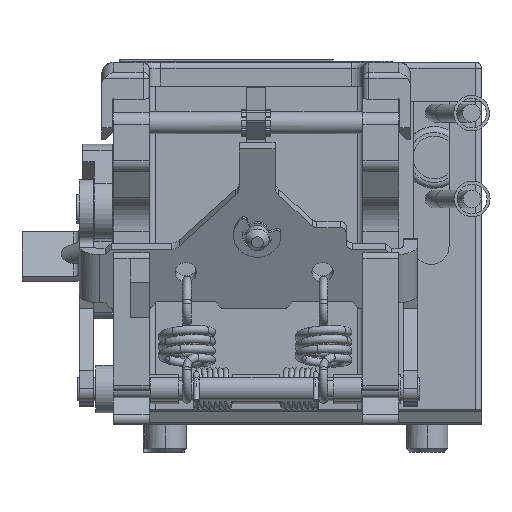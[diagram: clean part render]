
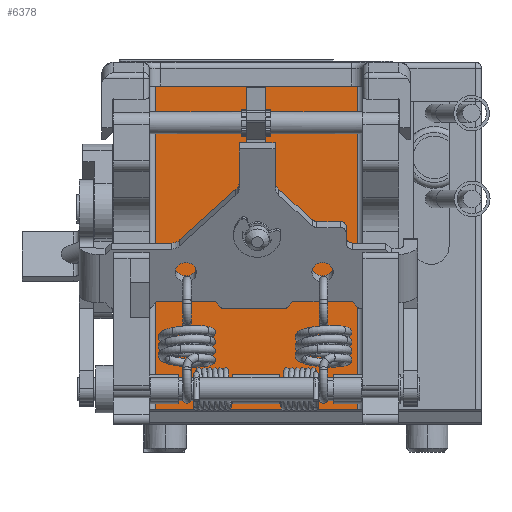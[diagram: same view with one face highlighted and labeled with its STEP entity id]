
A CAD part, front view. The second image highlights one B-rep face of the part: STEP entity #6378.
In plain terms, the highlighted planar face has unit normal (0, -1, 0).
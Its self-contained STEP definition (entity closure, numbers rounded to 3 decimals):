
#988=LINE('',#28867,#2637);
#1087=LINE('',#29102,#2736);
#1088=LINE('',#29105,#2737);
#1089=LINE('',#29107,#2738);
#1090=LINE('',#29109,#2739);
#1091=LINE('',#29110,#2740);
#1092=LINE('',#29113,#2741);
#1093=LINE('',#29115,#2742);
#1094=LINE('',#29117,#2743);
#1095=LINE('',#29118,#2744);
#1096=LINE('',#29120,#2745);
#1097=LINE('',#29122,#2746);
#2637=VECTOR('',#22095,1.);
#2736=VECTOR('',#22320,1.);
#2737=VECTOR('',#22321,1.);
#2738=VECTOR('',#22322,1.);
#2739=VECTOR('',#22323,1.);
#2740=VECTOR('',#22324,1.);
#2741=VECTOR('',#22325,1.);
#2742=VECTOR('',#22326,1.);
#2743=VECTOR('',#22327,1.);
#2744=VECTOR('',#22328,1.);
#2745=VECTOR('',#22329,1.);
#2746=VECTOR('',#22330,1.);
#5726=PLANE('',#19477);
#6378=ADVANCED_FACE('',(#7581,#7582,#7583),#5726,.T.);
#7581=FACE_BOUND('',#8174,.T.);
#7582=FACE_BOUND('',#8175,.T.);
#7583=FACE_BOUND('',#8176,.T.);
#8174=EDGE_LOOP('',(#10564,#10565,#10566,#10567));
#8175=EDGE_LOOP('',(#10568,#10569,#10570,#10571));
#8176=EDGE_LOOP('',(#10572,#10573,#10574,#10575));
#10564=ORIENTED_EDGE('',*,*,#16604,.F.);
#10565=ORIENTED_EDGE('',*,*,#16605,.T.);
#10566=ORIENTED_EDGE('',*,*,#16606,.T.);
#10567=ORIENTED_EDGE('',*,*,#16607,.F.);
#10568=ORIENTED_EDGE('',*,*,#16608,.F.);
#10569=ORIENTED_EDGE('',*,*,#16609,.T.);
#10570=ORIENTED_EDGE('',*,*,#16610,.F.);
#10571=ORIENTED_EDGE('',*,*,#16611,.F.);
#10572=ORIENTED_EDGE('',*,*,#16612,.T.);
#10573=ORIENTED_EDGE('',*,*,#16484,.F.);
#10574=ORIENTED_EDGE('',*,*,#16613,.F.);
#10575=ORIENTED_EDGE('',*,*,#16614,.T.);
#14628=VERTEX_POINT('',#28866);
#14629=VERTEX_POINT('',#28868);
#14702=VERTEX_POINT('',#29103);
#14703=VERTEX_POINT('',#29104);
#14704=VERTEX_POINT('',#29106);
#14705=VERTEX_POINT('',#29108);
#14706=VERTEX_POINT('',#29111);
#14707=VERTEX_POINT('',#29112);
#14708=VERTEX_POINT('',#29114);
#14709=VERTEX_POINT('',#29116);
#14710=VERTEX_POINT('',#29119);
#14711=VERTEX_POINT('',#29121);
#16484=EDGE_CURVE('',#14628,#14629,#988,.T.);
#16604=EDGE_CURVE('',#14702,#14703,#1087,.T.);
#16605=EDGE_CURVE('',#14702,#14704,#1088,.T.);
#16606=EDGE_CURVE('',#14704,#14705,#1089,.T.);
#16607=EDGE_CURVE('',#14703,#14705,#1090,.T.);
#16608=EDGE_CURVE('',#14706,#14707,#1091,.T.);
#16609=EDGE_CURVE('',#14706,#14708,#1092,.T.);
#16610=EDGE_CURVE('',#14709,#14708,#1093,.T.);
#16611=EDGE_CURVE('',#14707,#14709,#1094,.T.);
#16612=EDGE_CURVE('',#14710,#14629,#1095,.T.);
#16613=EDGE_CURVE('',#14711,#14628,#1096,.T.);
#16614=EDGE_CURVE('',#14711,#14710,#1097,.T.);
#19477=AXIS2_PLACEMENT_3D('',#29123,#22331,#22332);
#22095=DIRECTION('',(1.,0.,0.));
#22320=DIRECTION('',(1.,0.,0.));
#22321=DIRECTION('',(0.,0.,1.));
#22322=DIRECTION('',(1.,0.,0.));
#22323=DIRECTION('',(0.,0.,1.));
#22324=DIRECTION('',(1.,0.,0.));
#22325=DIRECTION('',(0.,0.,1.));
#22326=DIRECTION('',(-1.,0.,0.));
#22327=DIRECTION('',(0.,0.,1.));
#22328=DIRECTION('',(0.,0.,1.));
#22329=DIRECTION('',(0.,0.,1.));
#22330=DIRECTION('',(1.,0.,0.));
#22331=DIRECTION('',(0.,-1.,0.));
#22332=DIRECTION('',(1.,0.,0.));
#28866=CARTESIAN_POINT('',(-10.194,-12.214,9.274));
#28867=CARTESIAN_POINT('',(-10.194,-12.214,9.274));
#28868=CARTESIAN_POINT('',(6.806,-12.214,9.274));
#29102=CARTESIAN_POINT('',(-10.694,-12.214,-6.447));
#29103=CARTESIAN_POINT('',(-2.494,-12.214,-6.447));
#29104=CARTESIAN_POINT('',(-0.894,-12.214,-6.447));
#29105=CARTESIAN_POINT('',(-2.494,-12.214,-19.226));
#29106=CARTESIAN_POINT('',(-2.494,-12.214,-2.058));
#29107=CARTESIAN_POINT('',(-0.894,-12.214,-2.058));
#29108=CARTESIAN_POINT('',(-0.894,-12.214,-2.058));
#29109=CARTESIAN_POINT('',(-0.894,-12.214,-19.226));
#29110=CARTESIAN_POINT('',(-10.694,-12.214,3.777));
#29111=CARTESIAN_POINT('',(-2.494,-12.214,3.777));
#29112=CARTESIAN_POINT('',(-0.894,-12.214,3.777));
#29113=CARTESIAN_POINT('',(-2.494,-12.214,-19.226));
#29114=CARTESIAN_POINT('',(-2.494,-12.214,8.366));
#29115=CARTESIAN_POINT('',(-0.894,-12.214,8.366));
#29116=CARTESIAN_POINT('',(-0.894,-12.214,8.366));
#29117=CARTESIAN_POINT('',(-0.894,-12.214,-19.226));
#29118=CARTESIAN_POINT('',(6.806,-12.214,-17.926));
#29119=CARTESIAN_POINT('',(6.806,-12.214,-17.926));
#29120=CARTESIAN_POINT('',(-10.194,-12.214,-17.926));
#29121=CARTESIAN_POINT('',(-10.194,-12.214,-17.926));
#29122=CARTESIAN_POINT('',(-10.194,-12.214,-17.926));
#29123=CARTESIAN_POINT('',(-10.694,-12.214,-19.226));
